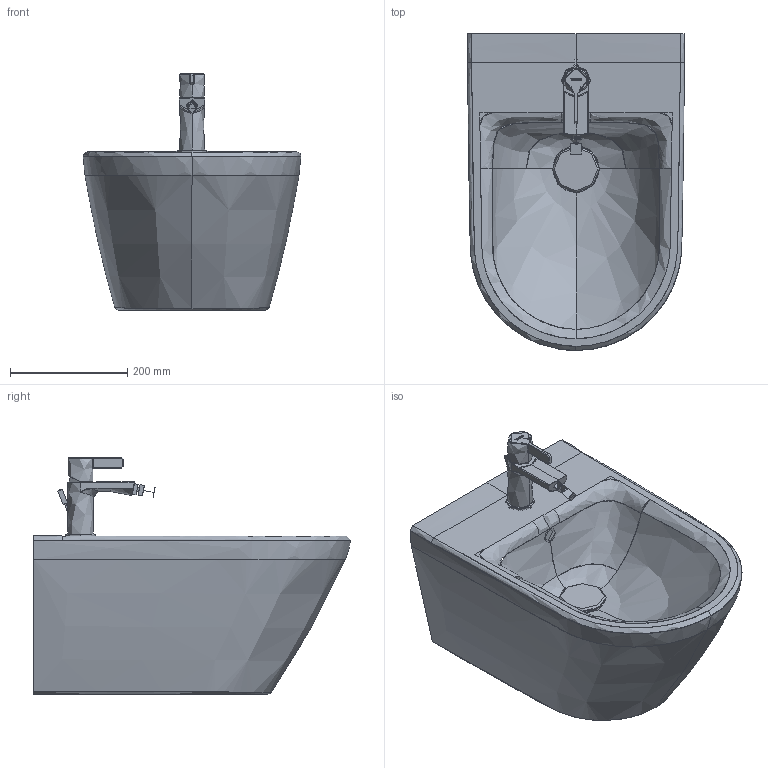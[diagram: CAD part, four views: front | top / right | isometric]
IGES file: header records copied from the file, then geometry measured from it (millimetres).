
Global section: file name: d:\users\matthias.isele\Desktop\planungsdaten_erstellen\Keramik\D-Neo\229415\229415.igs; native system: Rhinoceros ( Sep 13 2016 ); preprocessor: Trout Lake IGES 012 Sep 13 2016; date: 210621.073533; units: millimetre
Bounding box: 370.7 x 540 x 403.68 mm (x, y, z)
Surface area: 995722.6 mm2 (no closed solid volume)
Topology: 0 solids, 0 shells, 554 faces, 3942 edges, 3921 vertices
Faces by surface type: bspline 554
